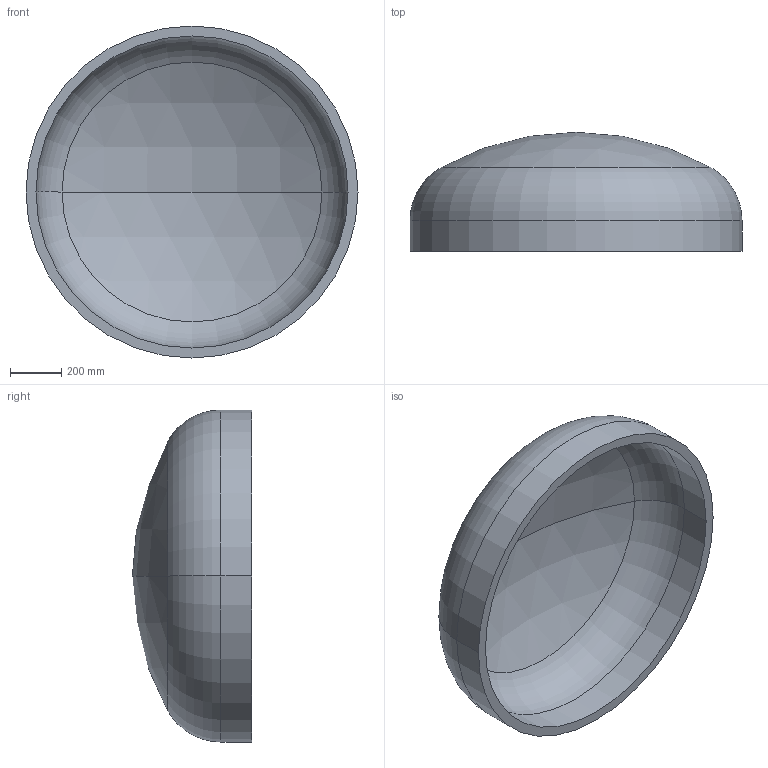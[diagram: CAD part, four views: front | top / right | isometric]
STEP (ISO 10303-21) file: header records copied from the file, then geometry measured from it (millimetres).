
FILE_DESCRIPTION (( 'STEP AP203' ), '1' );
FILE_NAME ('DIN 28013 Korbbogenform_-_Boden DIN 28013 - 1300 x 120 - I - s=39.step', '2016-07-01T09:50:49', ( '' ), ( '' ), 'SwSTEP 2.0', 'SolidWorks 2013', '' );
FILE_SCHEMA (( 'CONFIG_CONTROL_DESIGN' ));
Length unit declared in the file: millimetre
Products named in the file (1): DIN 28013 Korbbogenform_-_Boden DIN 28013 - 1300 x 120 - I - s=39
Bounding box: 1300 x 466.42 x 1300 mm (x, y, z)
Volume: 87465302.9 mm3; surface area: 4643084.9 mm2
Topology: 1 solids, 1 shells, 13 faces, 24 edges, 14 vertices
Faces by surface type: torus 4, cylinder 4, sphere 4, plane 1
Entity records: 407 total; most frequent: DIRECTION 72, CARTESIAN_POINT 52, ORIENTED_EDGE 48, AXIS2_PLACEMENT_3D 34, EDGE_CURVE 24, CIRCLE 20, VERTEX_POINT 14, EDGE_LOOP 14
